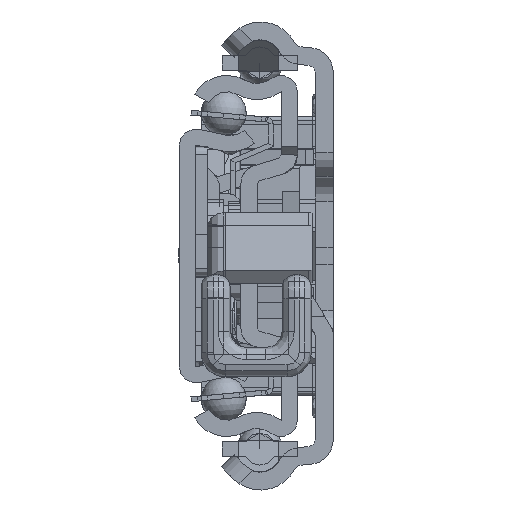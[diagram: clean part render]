
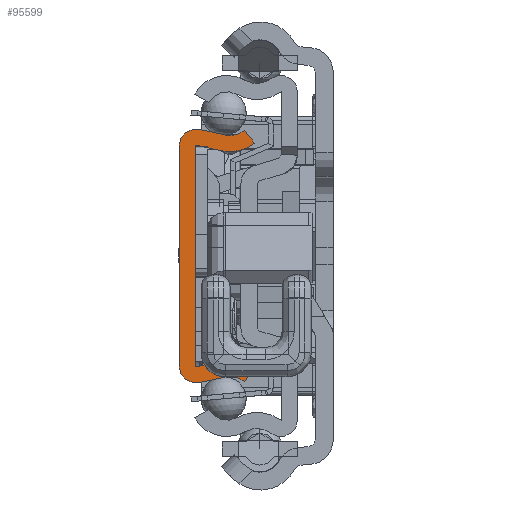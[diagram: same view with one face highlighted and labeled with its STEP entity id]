
A CAD part, left-side view. The second image highlights one B-rep face of the part: STEP entity #95599.
In plain terms, the highlighted planar face has unit normal (-1, 0, 0).
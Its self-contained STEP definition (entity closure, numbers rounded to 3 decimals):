
#89160=CARTESIAN_POINT('',(0.,-6.29,-17.65));
#89161=DIRECTION('',(-1.,0.,0.));
#89162=DIRECTION('',(0.,-0.629,0.778));
#89163=AXIS2_PLACEMENT_3D('',#89160,#89161,#89162);
#89165=DIRECTION('',(0.,0.977,-0.213));
#89166=VECTOR('',#89165,3.218);
#89167=CARTESIAN_POINT('',(0.,-5.692,-14.915));
#89168=LINE('',#89167,#89166);
#89169=CARTESIAN_POINT('',(0.,-2.1,-13.55));
#89170=DIRECTION('',(1.,0.,0.));
#89171=DIRECTION('',(0.,-0.213,-0.977));
#89172=AXIS2_PLACEMENT_3D('',#89169,#89170,#89171);
#89174=DIRECTION('',(0.,0.,1.));
#89175=VECTOR('',#89174,27.1);
#89176=CARTESIAN_POINT('',(0.,0.,-13.55));
#89177=LINE('',#89176,#89175);
#89178=CARTESIAN_POINT('',(0.,-2.1,13.55));
#89179=DIRECTION('',(1.,0.,0.));
#89180=DIRECTION('',(0.,1.,0.));
#89181=AXIS2_PLACEMENT_3D('',#89178,#89179,#89180);
#89183=DIRECTION('',(0.,-0.977,-0.213));
#89184=VECTOR('',#89183,3.218);
#89185=CARTESIAN_POINT('',(0.,-2.548,15.602));
#89186=LINE('',#89185,#89184);
#89187=CARTESIAN_POINT('',(0.,-6.29,17.65));
#89188=DIRECTION('',(-1.,0.,0.));
#89189=DIRECTION('',(0.,0.213,-0.977));
#89190=AXIS2_PLACEMENT_3D('',#89187,#89188,#89189);
#89192=DIRECTION('',(0.,-0.629,-0.778));
#89193=VECTOR('',#89192,2.);
#89194=CARTESIAN_POINT('',(0.,-8.05,15.472));
#89195=LINE('',#89194,#89193);
#89196=CARTESIAN_POINT('',(0.,-6.29,17.65));
#89197=DIRECTION('',(1.,0.,0.));
#89198=DIRECTION('',(0.,-0.629,-0.778));
#89199=AXIS2_PLACEMENT_3D('',#89196,#89197,#89198);
#89201=DIRECTION('',(0.,0.977,0.213));
#89202=VECTOR('',#89201,3.218);
#89203=CARTESIAN_POINT('',(0.,-5.265,12.961));
#89204=LINE('',#89203,#89202);
#89205=CARTESIAN_POINT('',(0.,-2.1,13.55));
#89206=DIRECTION('',(-1.,0.,0.));
#89207=DIRECTION('',(0.,-0.213,0.977));
#89208=AXIS2_PLACEMENT_3D('',#89205,#89206,#89207);
#89210=DIRECTION('',(0.,0.,-1.));
#89211=VECTOR('',#89210,27.1);
#89212=CARTESIAN_POINT('',(0.,-2.,13.55));
#89213=LINE('',#89212,#89211);
#89214=CARTESIAN_POINT('',(0.,-2.1,-13.55));
#89215=DIRECTION('',(-1.,0.,0.));
#89216=DIRECTION('',(0.,1.,0.));
#89217=AXIS2_PLACEMENT_3D('',#89214,#89215,#89216);
#89219=DIRECTION('',(0.,-0.977,0.213));
#89220=VECTOR('',#89219,3.218);
#89221=CARTESIAN_POINT('',(0.,-2.121,-13.648));
#89222=LINE('',#89221,#89220);
#89223=CARTESIAN_POINT('',(0.,-6.29,-17.65));
#89224=DIRECTION('',(1.,0.,0.));
#89225=DIRECTION('',(0.,0.213,0.977));
#89226=AXIS2_PLACEMENT_3D('',#89223,#89224,#89225);
#89228=DIRECTION('',(0.,0.629,-0.778));
#89229=VECTOR('',#89228,2.);
#89230=CARTESIAN_POINT('',(0.,-9.307,-13.917));
#89231=LINE('',#89230,#89229);
#94364=CARTESIAN_POINT('',(0.,-8.05,-15.472));
#94365=CARTESIAN_POINT('',(0.,-5.692,-14.915));
#94366=VERTEX_POINT('',#94364);
#94367=VERTEX_POINT('',#94365);
#94368=CARTESIAN_POINT('',(0.,-2.548,-15.602));
#94369=VERTEX_POINT('',#94368);
#94370=CARTESIAN_POINT('',(0.,0.,-13.55));
#94371=VERTEX_POINT('',#94370);
#94372=CARTESIAN_POINT('',(0.,0.,13.55));
#94373=VERTEX_POINT('',#94372);
#94374=CARTESIAN_POINT('',(0.,-2.548,15.602));
#94375=VERTEX_POINT('',#94374);
#94376=CARTESIAN_POINT('',(0.,-5.692,14.915));
#94377=VERTEX_POINT('',#94376);
#94378=CARTESIAN_POINT('',(0.,-8.05,15.472));
#94379=VERTEX_POINT('',#94378);
#94380=CARTESIAN_POINT('',(0.,-9.307,13.917));
#94381=VERTEX_POINT('',#94380);
#94382=CARTESIAN_POINT('',(0.,-5.265,12.961));
#94383=VERTEX_POINT('',#94382);
#94384=CARTESIAN_POINT('',(0.,-2.121,13.648));
#94385=VERTEX_POINT('',#94384);
#94386=CARTESIAN_POINT('',(0.,-2.,13.55));
#94387=VERTEX_POINT('',#94386);
#94388=CARTESIAN_POINT('',(0.,-2.,-13.55));
#94389=VERTEX_POINT('',#94388);
#94390=CARTESIAN_POINT('',(0.,-2.121,-13.648));
#94391=VERTEX_POINT('',#94390);
#94392=CARTESIAN_POINT('',(0.,-5.265,-12.961));
#94393=VERTEX_POINT('',#94392);
#94394=CARTESIAN_POINT('',(0.,-9.307,-13.917));
#94395=VERTEX_POINT('',#94394);
#95560=CARTESIAN_POINT('',(0.,0.,0.));
#95561=DIRECTION('',(1.,0.,0.));
#95562=DIRECTION('',(0.,-1.,0.));
#95563=AXIS2_PLACEMENT_3D('',#95560,#95561,#95562);
#95564=PLANE('',#95563);
#95566=ORIENTED_EDGE('',*,*,#95565,.T.);
#95568=ORIENTED_EDGE('',*,*,#95567,.T.);
#95570=ORIENTED_EDGE('',*,*,#95569,.T.);
#95572=ORIENTED_EDGE('',*,*,#95571,.T.);
#95574=ORIENTED_EDGE('',*,*,#95573,.T.);
#95576=ORIENTED_EDGE('',*,*,#95575,.T.);
#95578=ORIENTED_EDGE('',*,*,#95577,.T.);
#95580=ORIENTED_EDGE('',*,*,#95579,.T.);
#95582=ORIENTED_EDGE('',*,*,#95581,.T.);
#95584=ORIENTED_EDGE('',*,*,#95583,.T.);
#95586=ORIENTED_EDGE('',*,*,#95585,.T.);
#95588=ORIENTED_EDGE('',*,*,#95587,.T.);
#95590=ORIENTED_EDGE('',*,*,#95589,.T.);
#95592=ORIENTED_EDGE('',*,*,#95591,.T.);
#95594=ORIENTED_EDGE('',*,*,#95593,.T.);
#95596=ORIENTED_EDGE('',*,*,#95595,.T.);
#95597=EDGE_LOOP('',(#95566,#95568,#95570,#95572,#95574,#95576,#95578,#95580,
#95582,#95584,#95586,#95588,#95590,#95592,#95594,#95596));
#95598=FACE_OUTER_BOUND('',#95597,.F.);
#89164=CIRCLE('',#89163,2.8);
#89173=CIRCLE('',#89172,2.1);
#89182=CIRCLE('',#89181,2.1);
#89191=CIRCLE('',#89190,2.8);
#89200=CIRCLE('',#89199,4.8);
#89209=CIRCLE('',#89208,0.1);
#89218=CIRCLE('',#89217,0.1);
#89227=CIRCLE('',#89226,4.8);
#95565=EDGE_CURVE('',#94366,#94367,#89164,.T.);
#95567=EDGE_CURVE('',#94367,#94369,#89168,.T.);
#95569=EDGE_CURVE('',#94369,#94371,#89173,.T.);
#95571=EDGE_CURVE('',#94371,#94373,#89177,.T.);
#95573=EDGE_CURVE('',#94373,#94375,#89182,.T.);
#95575=EDGE_CURVE('',#94375,#94377,#89186,.T.);
#95577=EDGE_CURVE('',#94377,#94379,#89191,.T.);
#95579=EDGE_CURVE('',#94379,#94381,#89195,.T.);
#95581=EDGE_CURVE('',#94381,#94383,#89200,.T.);
#95583=EDGE_CURVE('',#94383,#94385,#89204,.T.);
#95585=EDGE_CURVE('',#94385,#94387,#89209,.T.);
#95587=EDGE_CURVE('',#94387,#94389,#89213,.T.);
#95589=EDGE_CURVE('',#94389,#94391,#89218,.T.);
#95591=EDGE_CURVE('',#94391,#94393,#89222,.T.);
#95593=EDGE_CURVE('',#94393,#94395,#89227,.T.);
#95595=EDGE_CURVE('',#94395,#94366,#89231,.T.);
#95599=ADVANCED_FACE('',(#95598),#95564,.F.);
